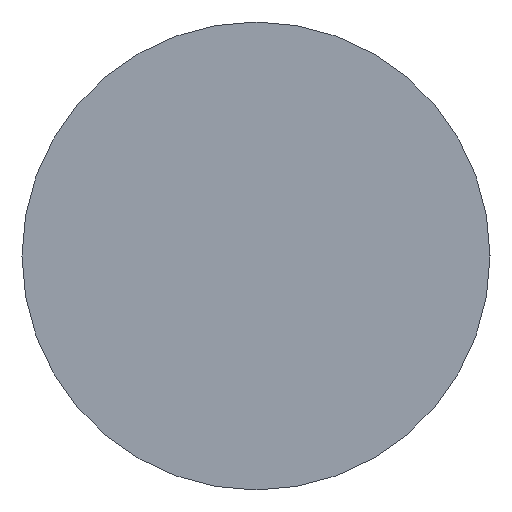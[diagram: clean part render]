
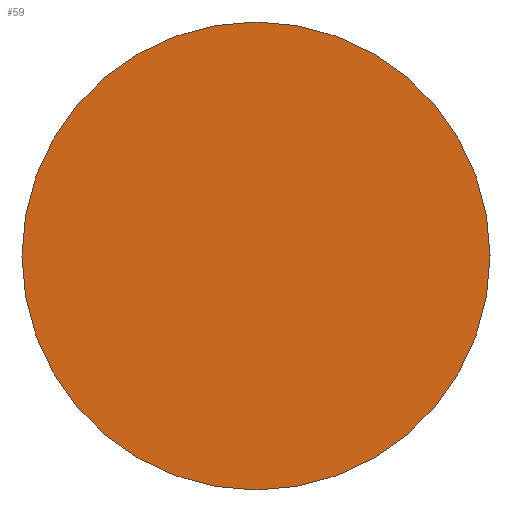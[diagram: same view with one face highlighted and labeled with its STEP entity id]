
A CAD part, left-side view. The second image highlights one B-rep face of the part: STEP entity #59.
In plain terms, the highlighted planar face has unit normal (-1, 0, 0).
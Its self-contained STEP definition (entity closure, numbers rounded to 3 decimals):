
#31 = VERTEX_POINT('',#32);
#32 = CARTESIAN_POINT('',(-19.05,0.,0.25));
#38 = EDGE_CURVE('',#31,#31,#39,.T.);
#39 = CIRCLE('',#40,0.25);
#40 = AXIS2_PLACEMENT_3D('',#41,#42,#43);
#41 = CARTESIAN_POINT('',(-19.05,0.,0.));
#42 = DIRECTION('',(1.,0.,0.));
#43 = DIRECTION('',(-0.,0.,1.));
#59 = ADVANCED_FACE('',(#60),#63,.F.);
#60 = FACE_BOUND('',#61,.T.);
#61 = EDGE_LOOP('',(#62));
#62 = ORIENTED_EDGE('',*,*,#38,.F.);
#63 = PLANE('',#64);
#64 = AXIS2_PLACEMENT_3D('',#65,#66,#67);
#65 = CARTESIAN_POINT('',(-19.05,0.,0.));
#66 = DIRECTION('',(1.,0.,0.));
#67 = DIRECTION('',(-0.,0.,1.));
